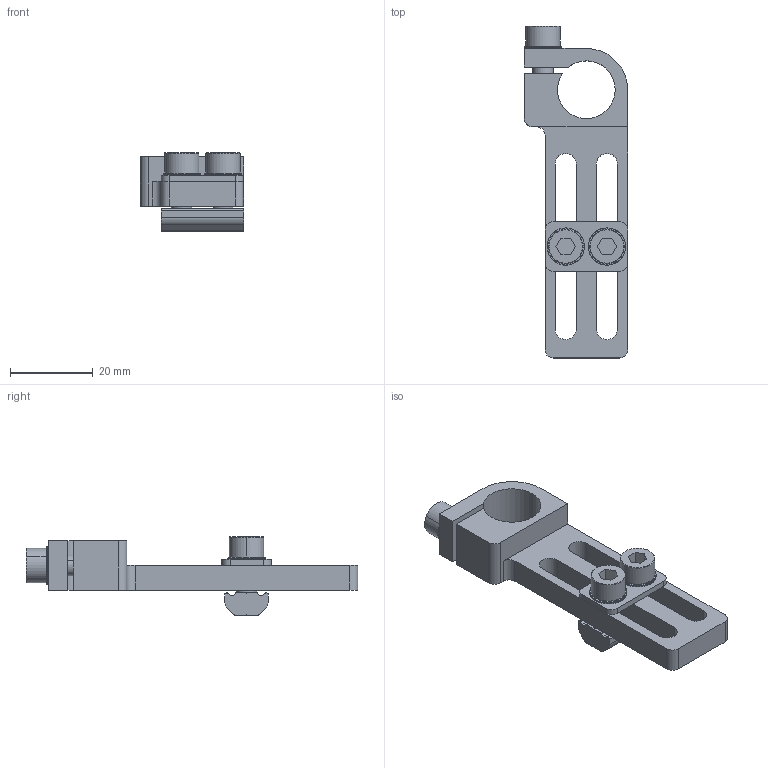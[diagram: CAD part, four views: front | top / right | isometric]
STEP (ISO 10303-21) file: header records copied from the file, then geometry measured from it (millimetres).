
FILE_DESCRIPTION (( 'STEP AP214' ), '1' );
FILE_NAME ('SMBE1-1440T.STEP', '2022-12-14T02:48:14', ( '' ), ( '' ), 'SwSTEP 2.0', 'SolidWorks 2018', '' );
FILE_SCHEMA (( 'AUTOMOTIVE_DESIGN' ));
Length unit declared in the file: millimetre
Products named in the file (1): SMBE1-1440T
Bounding box: 25 x 80.45 x 19 mm (x, y, z)
Volume: 9788.7 mm3; surface area: 8811.9 mm2
Topology: 9 solids, 9 shells, 649 faces, 1884 edges, 1250 vertices
Faces by surface type: plane 561, cylinder 70, cone 18
Entity records: 28941 total; most frequent: CARTESIAN_POINT 3976, DIRECTION 3782, ORIENTED_EDGE 3768, EDGE_CURVE 1884, AXIS2_PLACEMENT_3D 1280, VERTEX_POINT 1250, LINE 1222, VECTOR 1222
